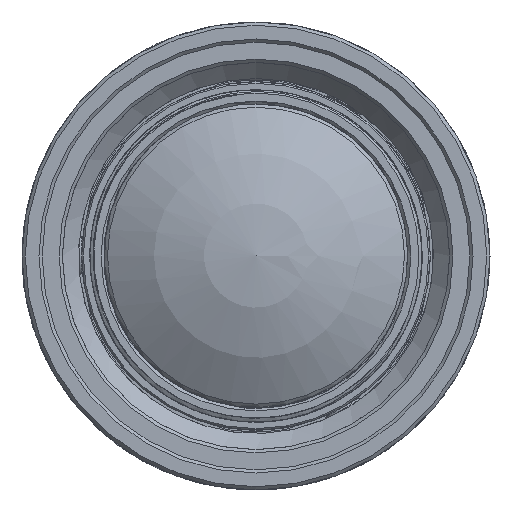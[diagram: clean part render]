
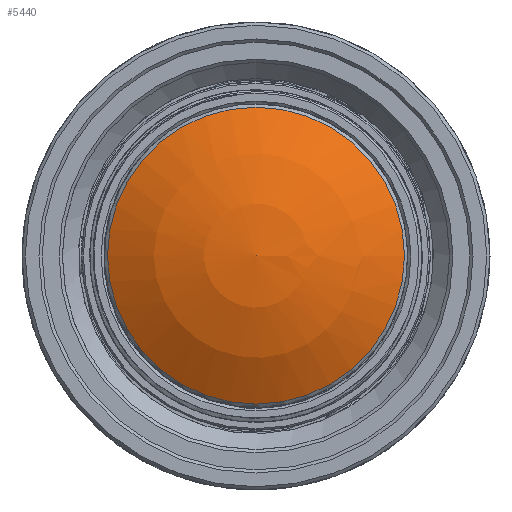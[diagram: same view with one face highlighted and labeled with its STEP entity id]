
A CAD part, left-side view. The second image highlights one B-rep face of the part: STEP entity #5440.
In plain terms, the highlighted spherical face has radius 16.827 mm.
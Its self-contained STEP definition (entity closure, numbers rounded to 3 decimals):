
#36=SPHERICAL_SURFACE('',#18311,16.827);
#1256=CIRCLE('',#18310,9.2);
#4393=FACE_OUTER_BOUND('',#7216,.T.);
#5440=ADVANCED_FACE('',(#4393),#36,.T.);
#7216=EDGE_LOOP('',(#10928));
#10928=ORIENTED_EDGE('',*,*,#15658,.T.);
#13509=VERTEX_POINT('',#63697);
#15658=EDGE_CURVE('',#13509,#13509,#1256,.T.);
#18310=AXIS2_PLACEMENT_3D('',#63696,#21759,#21760);
#18311=AXIS2_PLACEMENT_3D('',#63698,#21761,#21762);
#21759=DIRECTION('',(-1.,0.,0.));
#21760=DIRECTION('',(0.,0.,1.));
#21761=DIRECTION('',(-1.,0.,0.));
#21762=DIRECTION('',(0.,-1.,0.));
#63696=CARTESIAN_POINT('',(-20.533,0.,0.02));
#63697=CARTESIAN_POINT('',(-20.533,0.,9.22));
#63698=CARTESIAN_POINT('',(-6.444,0.,0.02));
